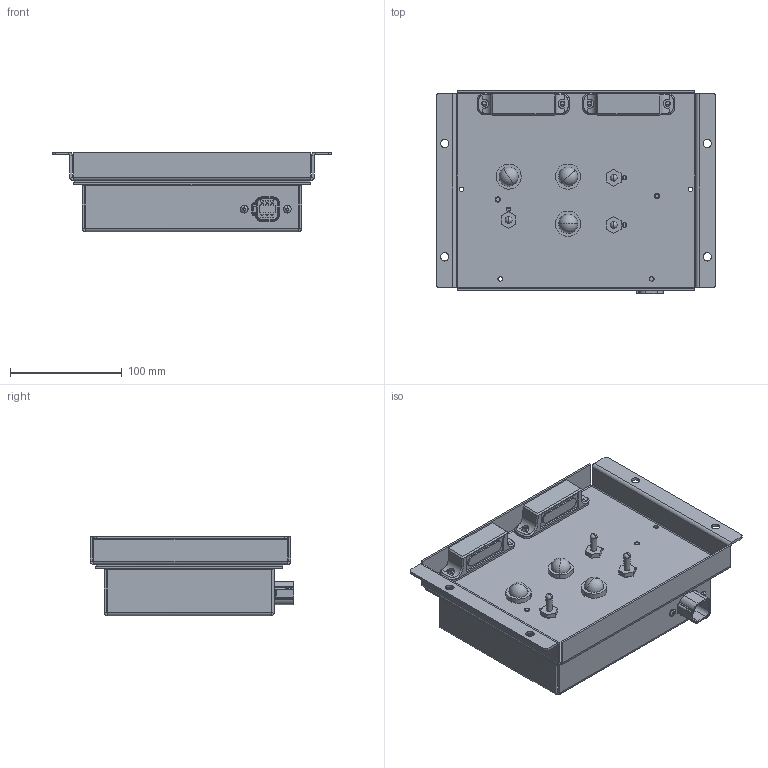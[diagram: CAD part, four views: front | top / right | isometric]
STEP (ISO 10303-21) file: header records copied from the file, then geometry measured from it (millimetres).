
FILE_DESCRIPTION (( 'STEP AP214' ), '1' );
FILE_NAME ('AECU-CPJM-101.STEP', '2019-04-02T16:34:20', ( '' ), ( '' ), 'SwSTEP 2.0', 'SolidWorks 2014', '' );
FILE_SCHEMA (( 'AUTOMOTIVE_DESIGN' ));
Length unit declared in the file: inch
Products named in the file (36): User_Library-RES_2013-0805_2; AECU-CPJM-101; STEP-WE-PD-7345-Metal-rev1_1; SW3dPS-1289_1; Hybrid Light; User_Library-DO-214AA_SMB_2; Part15^Hybrid Light; User_Library-Cap12_5x25_1; Part14^Hybrid Light; SW3dPS-0603_SMD_Capacitor_1; Part13^Hybrid Light; SW3dPS-0805_SMD_Capacitor_2; 96001A264_18-8 SS TORX THREAD-FORMING SCREW FOR PLASTIC (1)_96001A264; Board_Jack_RT; Part6^AECU-CPJM-101; 91831A007_TYPE 18-8 STAINLESS STL NYLON-INSERT LOCKNUT_91831A007; c-dt04-6p-cl09-99-3d; 93580A225_PEM R  PRESS-IN STUD_93580A225; Part5^AECU-CPJM-101; 0190090011 Quick Connect; Part5; Part14^AECU-CPJM-101; right side potting; Jack RT; Right Side Board; SW3DPS-SOT-23-DEFAULT_1; Solico 66 Panel light; ABM7_(20MHZ)_1; solico nut; User_Library-SOIC-8-1_1; Alignment Ring; User_Library-0ZCG-0_90mmPTC1812X0_5MM_1; T7 OTTO Togle Switch; User_Library-RES_1609-0603_2; Right Side Facia; User_Library-RES_3216-1206_2
Assembly tree (83 placements, depth 3):
  AECU-CPJM-101
    Right Side Facia
    T7 OTTO Togle Switch  x3
    Alignment Ring  x3
    solico nut  x3
    Solico 66 Panel light  x3
    Right Side Board
    right side potting
    93580A225_PEM R  PRESS-IN STUD_93580A225  x2
    91831A007_TYPE 18-8 STAINLESS STL NYLON-INSERT LOCKNUT_91831A007  x2
    Jack RT
      Board_Jack_RT
      SW3dPS-0805_SMD_Capacitor_2  x9
      SW3dPS-0603_SMD_Capacitor_1  x9
      User_Library-Cap12_5x25_1
      User_Library-DO-214AA_SMB_2
      SW3dPS-1289_1  x4
      STEP-WE-PD-7345-Metal-rev1_1
      User_Library-RES_2013-0805_2  x7
      User_Library-RES_3216-1206_2  x4
      User_Library-RES_1609-0603_2  x6
      User_Library-0ZCG-0_90mmPTC1812X0_5MM_1
      User_Library-SOIC-8-1_1  x6
      ABM7_(20MHZ)_1
      SW3DPS-SOT-23-DEFAULT_1
    Part14^AECU-CPJM-101
    0190090011 Quick Connect
    Part5^AECU-CPJM-101
    c-dt04-6p-cl09-99-3d
    Part6^AECU-CPJM-101
    96001A264_18-8 SS TORX THREAD-FORMING SCREW FOR PLASTIC (1)_96001A264  x2
    Hybrid Light  x2
      Part13^Hybrid Light
      Part15^Hybrid Light
  Part14^Hybrid Light
  Part5
Bounding box: 250.06 x 182.37 x 71.44 mm (x, y, z)
Volume: 478280.3 mm3; surface area: 393739.9 mm2
Topology: 149 solids, 149 shells, 7277 faces, 18713 edges, 11884 vertices
Faces by surface type: plane 3669, bspline 1810, cylinder 1468, cone 202, torus 112, sphere 16
Entity records: 176951 total; most frequent: CARTESIAN_POINT 58223, ORIENTED_EDGE 18202, DIRECTION 15111, EDGE_CURVE 9101, VERTEX_POINT 5846, VECTOR 5667, LINE 5667, AXIS2_PLACEMENT_3D 4722
